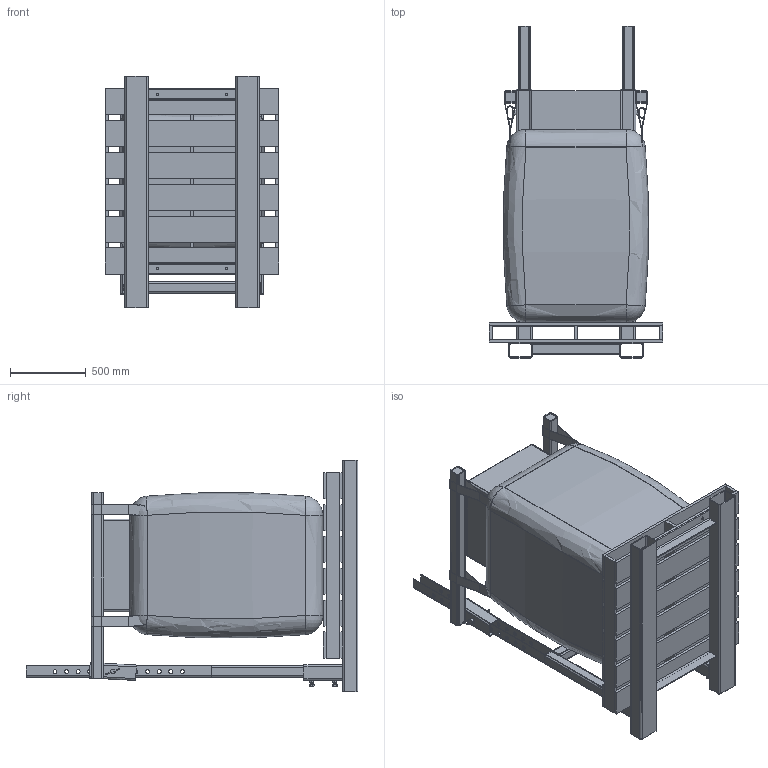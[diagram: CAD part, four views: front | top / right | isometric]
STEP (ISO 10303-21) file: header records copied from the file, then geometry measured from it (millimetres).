
FILE_DESCRIPTION(/* description */ ('BagPak 1100 DT Standard Base'),/* implementation_level */ '2;1');
FILE_NAME(/* name */ 'B:\Sales Drawings\1100 DT Sales Drawing\Inventor\005421-BagPak 1100 DT Standard Base.stp',/* time_stamp */ '2021-05-07T08:01:14-05:00',/* author */ ('rwest'),/* organization */ ('FormPak Inc.'),/* preprocessor_version */ 'ST-DEVELOPER v17',/* originating_system */ 'Autodesk Inventor 2019',/* authorisation */ '');
FILE_SCHEMA (('AUTOMOTIVE_DESIGN { 1 0 10303 214 3 1 1 }'));
Length unit declared in the file: inch
Products named in the file (22): 005421; 000086-L; 000086-R; 000086.2; 000086.1; 000086.3; 00233; 48in x 48in Pallet; Bag; Bag Straps; Bulkbag 1; 000252; AISC - L 3 x 3 x 1/4 - 22.75; AISC - 6x4x1/4 - 60; AISC - 4x4x1/4 - 10; ANSI B18.2.2 - 3/4 - 10; ANSI/ASME B18.2.1 - 3/4-10 UNC - 2; 002174; 002056; AISC - 3x3x1/4 - 24; AISC - 3x3x1/4 - 34; AISC - 2 1/2x2 1/2 - 0.125
Assembly tree (42 placements, depth 3):
  005421
    000086-L
      000086.2
      000086.1
      000086.3  x2
    000086-R
      000086.2
      000086.1
      000086.3  x2
    00233  x2
    48in x 48in Pallet
    Bag
      Bag Straps  x4
      Bulkbag 1
    000252
      AISC - L 3 x 3 x 1/4 - 22.75  x2
      AISC - 6x4x1/4 - 60  x2
      AISC - 4x4x1/4 - 10  x2
      ANSI B18.2.2 - 3/4 - 10  x4
    ANSI/ASME B18.2.1 - 3/4-10 UNC - 2  x4
    002174
      002056  x2
      AISC - 3x3x1/4 - 24
      AISC - 3x3x1/4 - 34  x2
      AISC - 2 1/2x2 1/2 - 0.125  x2
Bounding box: 1143 x 2184.4 x 1524 mm (x, y, z)
Volume: 91247536.1 mm3; surface area: 26289241.6 mm2
Topology: 51 solids, 51 shells, 1011 faces, 2398 edges, 1486 vertices
Faces by surface type: plane 463, cylinder 322, cone 90, bspline 64, torus 56, sphere 16
Full cylindrical faces by diameter (mm): 3.175 x2, 5.08 x6, 15.875 x4, 16.307 x4, 18.974 x2, 19.05 x4, 20.637 x4, 25.4 x52, 28.575 x4, 31.75 x2
Entity records: 16000 total; most frequent: CARTESIAN_POINT 4124, DIRECTION 2377, ORIENTED_EDGE 2224, EDGE_CURVE 1112, AXIS2_PLACEMENT_3D 878, VERTEX_POINT 700, LINE 621, VECTOR 621
